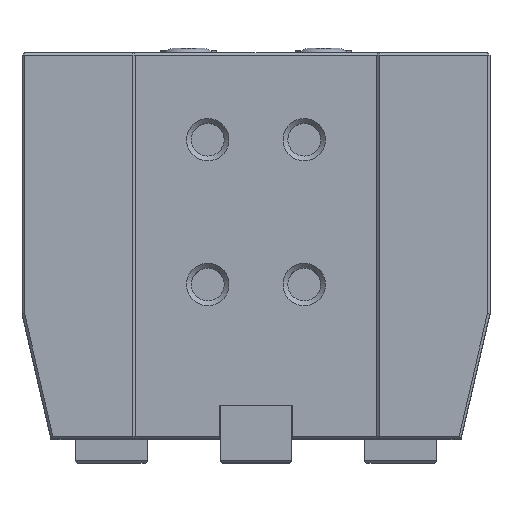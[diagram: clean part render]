
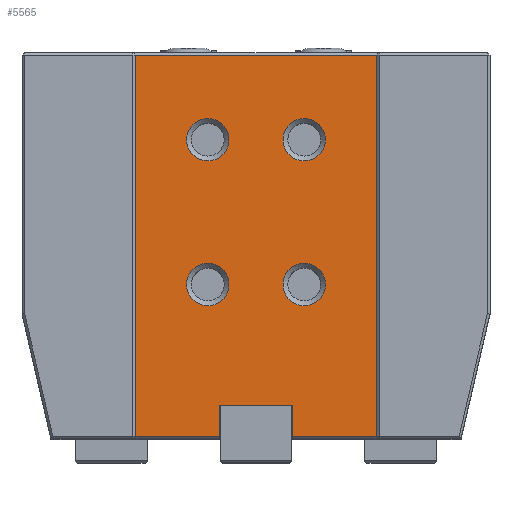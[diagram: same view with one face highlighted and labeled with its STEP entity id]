
A CAD part, top view. The second image highlights one B-rep face of the part: STEP entity #5565.
In plain terms, the highlighted planar face has unit normal (0, 0, 1).
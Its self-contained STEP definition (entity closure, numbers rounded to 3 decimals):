
#140=FACE_BOUND('',#899,.T.);
#141=FACE_BOUND('',#900,.T.);
#142=FACE_BOUND('',#901,.T.);
#143=FACE_BOUND('',#902,.T.);
#289=CIRCLE('',#6025,4.4);
#290=CIRCLE('',#6026,4.4);
#291=CIRCLE('',#6027,4.4);
#292=CIRCLE('',#6028,4.4);
#546=FACE_OUTER_BOUND('',#898,.T.);
#898=EDGE_LOOP('',(#4082,#4083,#4084,#4085,#4086,#4087,#4088,#4089));
#899=EDGE_LOOP('',(#4090));
#900=EDGE_LOOP('',(#4091));
#901=EDGE_LOOP('',(#4092));
#902=EDGE_LOOP('',(#4093));
#1301=LINE('',#8617,#1818);
#1343=LINE('',#8698,#1860);
#1346=LINE('',#8704,#1863);
#1385=LINE('',#8776,#1902);
#1388=LINE('',#8781,#1905);
#1389=LINE('',#8783,#1906);
#1390=LINE('',#8786,#1907);
#1391=LINE('',#8787,#1908);
#1818=VECTOR('',#6958,10.);
#1860=VECTOR('',#7032,10.);
#1863=VECTOR('',#7037,10.);
#1902=VECTOR('',#7124,10.);
#1905=VECTOR('',#7129,10.);
#1906=VECTOR('',#7132,10.);
#1907=VECTOR('',#7135,10.);
#1908=VECTOR('',#7136,10.);
#2357=VERTEX_POINT('',#8615);
#2358=VERTEX_POINT('',#8616);
#2380=VERTEX_POINT('',#8695);
#2381=VERTEX_POINT('',#8697);
#2382=VERTEX_POINT('',#8701);
#2383=VERTEX_POINT('',#8703);
#2392=VERTEX_POINT('',#8775);
#2394=VERTEX_POINT('',#8785);
#2395=VERTEX_POINT('',#8788);
#2396=VERTEX_POINT('',#8790);
#2397=VERTEX_POINT('',#8792);
#2398=VERTEX_POINT('',#8794);
#2927=EDGE_CURVE('',#2357,#2358,#1301,.T.);
#2969=EDGE_CURVE('',#2380,#2381,#1343,.T.);
#2972=EDGE_CURVE('',#2382,#2383,#1346,.T.);
#3011=EDGE_CURVE('',#2392,#2358,#1385,.T.);
#3014=EDGE_CURVE('',#2357,#2381,#1388,.T.);
#3015=EDGE_CURVE('',#2383,#2380,#1389,.T.);
#3016=EDGE_CURVE('',#2382,#2394,#1390,.T.);
#3017=EDGE_CURVE('',#2394,#2392,#1391,.T.);
#3018=EDGE_CURVE('',#2395,#2395,#289,.T.);
#3019=EDGE_CURVE('',#2396,#2396,#290,.T.);
#3020=EDGE_CURVE('',#2397,#2397,#291,.T.);
#3021=EDGE_CURVE('',#2398,#2398,#292,.T.);
#4082=ORIENTED_EDGE('',*,*,#2927,.F.);
#4083=ORIENTED_EDGE('',*,*,#3014,.T.);
#4084=ORIENTED_EDGE('',*,*,#2969,.F.);
#4085=ORIENTED_EDGE('',*,*,#3015,.F.);
#4086=ORIENTED_EDGE('',*,*,#2972,.F.);
#4087=ORIENTED_EDGE('',*,*,#3016,.T.);
#4088=ORIENTED_EDGE('',*,*,#3017,.T.);
#4089=ORIENTED_EDGE('',*,*,#3011,.T.);
#4090=ORIENTED_EDGE('',*,*,#3018,.F.);
#4091=ORIENTED_EDGE('',*,*,#3019,.F.);
#4092=ORIENTED_EDGE('',*,*,#3020,.F.);
#4093=ORIENTED_EDGE('',*,*,#3021,.F.);
#4962=PLANE('',#6024);
#5565=ADVANCED_FACE('',(#546,#140,#141,#142,#143),#4962,.F.);
#6024=AXIS2_PLACEMENT_3D('',#8784,#7133,#7134);
#6025=AXIS2_PLACEMENT_3D('',#8789,#7137,#7138);
#6026=AXIS2_PLACEMENT_3D('',#8791,#7139,#7140);
#6027=AXIS2_PLACEMENT_3D('',#8793,#7141,#7142);
#6028=AXIS2_PLACEMENT_3D('',#8795,#7143,#7144);
#6958=DIRECTION('',(-1.,0.,0.));
#7032=DIRECTION('',(1.,0.,0.));
#7037=DIRECTION('',(-1.,0.,0.));
#7124=DIRECTION('',(0.,-1.,0.));
#7129=DIRECTION('',(0.,1.,0.));
#7132=DIRECTION('',(0.,1.,0.));
#7133=DIRECTION('center_axis',(0.,0.,-1.));
#7134=DIRECTION('ref_axis',(-1.,0.,0.));
#7135=DIRECTION('',(0.,1.,0.));
#7136=DIRECTION('',(1.,0.,0.));
#7137=DIRECTION('center_axis',(0.,0.,1.));
#7138=DIRECTION('ref_axis',(-1.,0.,0.));
#7139=DIRECTION('center_axis',(0.,0.,1.));
#7140=DIRECTION('ref_axis',(-1.,0.,0.));
#7141=DIRECTION('center_axis',(0.,0.,1.));
#7142=DIRECTION('ref_axis',(-1.,0.,0.));
#7143=DIRECTION('center_axis',(0.,0.,1.));
#7144=DIRECTION('ref_axis',(-1.,0.,0.));
#8615=CARTESIAN_POINT('',(73.5,0.5,-25.));
#8616=CARTESIAN_POINT('',(56.,0.5,-25.));
#8617=CARTESIAN_POINT('',(61.,0.5,-25.));
#8695=CARTESIAN_POINT('',(23.5,79.5,-25.));
#8697=CARTESIAN_POINT('',(73.5,79.5,-25.));
#8698=CARTESIAN_POINT('',(61.,79.5,-25.));
#8701=CARTESIAN_POINT('',(41.,0.5,-25.));
#8703=CARTESIAN_POINT('',(23.5,0.5,-25.));
#8704=CARTESIAN_POINT('',(61.,0.5,-25.));
#8775=CARTESIAN_POINT('',(56.,7.,-25.));
#8776=CARTESIAN_POINT('',(56.,0.,-25.));
#8781=CARTESIAN_POINT('',(73.5,0.,-25.));
#8783=CARTESIAN_POINT('',(23.5,0.,-25.));
#8784=CARTESIAN_POINT('Origin',(73.5,0.,-25.));
#8785=CARTESIAN_POINT('',(41.,7.,-25.));
#8786=CARTESIAN_POINT('',(41.,0.,-25.));
#8787=CARTESIAN_POINT('',(61.,7.,-25.));
#8788=CARTESIAN_POINT('',(42.9,32.,-25.));
#8789=CARTESIAN_POINT('Origin',(38.5,32.,-25.));
#8790=CARTESIAN_POINT('',(62.9,62.,-25.));
#8791=CARTESIAN_POINT('Origin',(58.5,62.,-25.));
#8792=CARTESIAN_POINT('',(42.9,62.,-25.));
#8793=CARTESIAN_POINT('Origin',(38.5,62.,-25.));
#8794=CARTESIAN_POINT('',(62.9,32.,-25.));
#8795=CARTESIAN_POINT('Origin',(58.5,32.,-25.));
